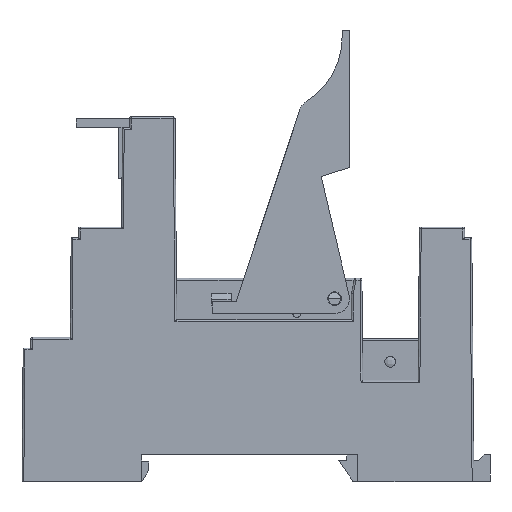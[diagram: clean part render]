
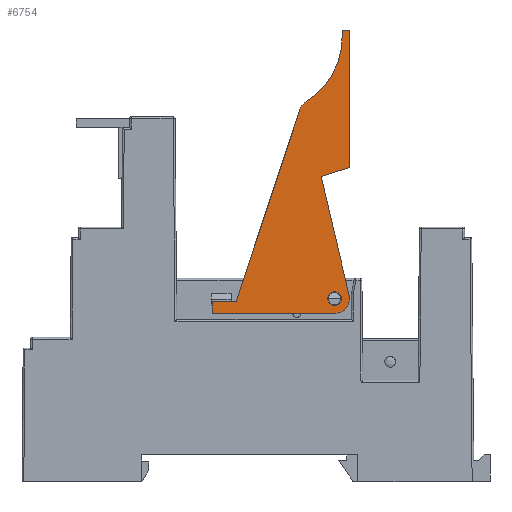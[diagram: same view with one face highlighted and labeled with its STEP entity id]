
A CAD part, left-side view. The second image highlights one B-rep face of the part: STEP entity #6754.
In plain terms, the highlighted planar face has unit normal (-1, 0, 0).
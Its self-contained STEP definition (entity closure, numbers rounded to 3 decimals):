
#378 = VECTOR ( 'NONE', #27039, 1000. ) ;
#723 = AXIS2_PLACEMENT_3D ( 'NONE', #17724, #3909, #24501 ) ;
#1044 = CARTESIAN_POINT ( 'NONE',  ( 0.15, 26.07, 28.2 ) ) ;
#1111 = ORIENTED_EDGE ( 'NONE', *, *, #17125, .F. ) ;
#1541 = ORIENTED_EDGE ( 'NONE', *, *, #21263, .F. ) ;
#1662 = DIRECTION ( 'NONE',  ( 0., 1., 0. ) ) ;
#2017 = EDGE_CURVE ( 'NONE', #27797, #2109, #17650, .T. ) ;
#2109 = VERTEX_POINT ( 'NONE', #28010 ) ;
#2165 = CARTESIAN_POINT ( 'NONE',  ( 0.15, 42.57, 30.2 ) ) ;
#2189 = EDGE_CURVE ( 'NONE', #25485, #23096, #16104, .T. ) ;
#2244 = VERTEX_POINT ( 'NONE', #13354 ) ;
#2558 = LINE ( 'NONE', #9257, #10725 ) ;
#2765 = CARTESIAN_POINT ( 'NONE',  ( 0.15, 29.501, 61.649 ) ) ;
#2853 = CARTESIAN_POINT ( 'NONE',  ( 0.15, 46.57, 30.2 ) ) ;
#3717 = CARTESIAN_POINT ( 'NONE',  ( 0.15, 26.07, 30.7 ) ) ;
#3909 = DIRECTION ( 'NONE',  ( 1., 0., 0. ) ) ;
#4038 = AXIS2_PLACEMENT_3D ( 'NONE', #2765, #16160, #9482 ) ;
#4094 = FACE_OUTER_BOUND ( 'NONE', #5244, .T. ) ;
#4175 = ORIENTED_EDGE ( 'NONE', *, *, #2017, .F. ) ;
#4322 = CARTESIAN_POINT ( 'NONE',  ( 0.15, 28.32, 51.2 ) ) ;
#4386 = VECTOR ( 'NONE', #28084, 1000. ) ;
#4415 = CARTESIAN_POINT ( 'NONE',  ( 0.15, 46.57, 28.2 ) ) ;
#4417 = ORIENTED_EDGE ( 'NONE', *, *, #19277, .F. ) ;
#4704 = ORIENTED_EDGE ( 'NONE', *, *, #28026, .F. ) ;
#4885 = EDGE_CURVE ( 'NONE', #7505, #27797, #10833, .T. ) ;
#5244 = EDGE_LOOP ( 'NONE', ( #22936, #4175, #6768, #6248, #21399, #5542, #1111, #4704, #4417, #21022, #7794, #8109, #1541 ) ) ;
#5392 = DIRECTION ( 'NONE',  ( 1., 0., 0. ) ) ;
#5410 = VECTOR ( 'NONE', #17784, 1000. ) ;
#5540 = DIRECTION ( 'NONE',  ( 0., -1., 0. ) ) ;
#5542 = ORIENTED_EDGE ( 'NONE', *, *, #22746, .F. ) ;
#5569 = DIRECTION ( 'NONE',  ( -1., 0., 0. ) ) ;
#5750 = CARTESIAN_POINT ( 'NONE',  ( 0.15, 42.57, 30.2 ) ) ;
#6248 = ORIENTED_EDGE ( 'NONE', *, *, #26065, .F. ) ;
#6625 = CARTESIAN_POINT ( 'NONE',  ( 0.15, 27.22, 30.7 ) ) ;
#6744 = CARTESIAN_POINT ( 'NONE',  ( 0.15, 26.07, 30.7 ) ) ;
#6754 = ADVANCED_FACE ( 'NONE', ( #4094, #12963 ), #17061, .F. ) ;
#6768 = ORIENTED_EDGE ( 'NONE', *, *, #4885, .F. ) ;
#7505 = VERTEX_POINT ( 'NONE', #19607 ) ;
#7661 = EDGE_LOOP ( 'NONE', ( #9612, #12289 ) ) ;
#7794 = ORIENTED_EDGE ( 'NONE', *, *, #10927, .F. ) ;
#8030 = AXIS2_PLACEMENT_3D ( 'NONE', #25582, #5569, #14418 ) ;
#8109 = ORIENTED_EDGE ( 'NONE', *, *, #25019, .F. ) ;
#8244 = EDGE_CURVE ( 'NONE', #2109, #2244, #22836, .T. ) ;
#8456 = CARTESIAN_POINT ( 'NONE',  ( 0.15, 23.57, 75.7 ) ) ;
#8606 = CARTESIAN_POINT ( 'NONE',  ( 0.15, 23.636, 31.272 ) ) ;
#9257 = CARTESIAN_POINT ( 'NONE',  ( 0.15, 24.82, 75.7 ) ) ;
#9482 = DIRECTION ( 'NONE',  ( 0., 1., 0. ) ) ;
#9612 = ORIENTED_EDGE ( 'NONE', *, *, #2189, .T. ) ;
#10252 = LINE ( 'NONE', #19146, #4386 ) ;
#10275 = AXIS2_PLACEMENT_3D ( 'NONE', #21882, #23530, #28189 ) ;
#10603 = VECTOR ( 'NONE', #11745, 1000. ) ;
#10717 = VERTEX_POINT ( 'NONE', #11827 ) ;
#10725 = VECTOR ( 'NONE', #18121, 1000. ) ;
#10833 = CIRCLE ( 'NONE', #25801, 2.5 ) ;
#10927 = EDGE_CURVE ( 'NONE', #18834, #26016, #16124, .T. ) ;
#11745 = DIRECTION ( 'NONE',  ( 0., -1., 0. ) ) ;
#11827 = CARTESIAN_POINT ( 'NONE',  ( 0.15, 23.57, 52.7 ) ) ;
#12289 = ORIENTED_EDGE ( 'NONE', *, *, #12808, .T. ) ;
#12808 = EDGE_CURVE ( 'NONE', #23096, #25485, #13124, .T. ) ;
#12963 = FACE_BOUND ( 'NONE', #7661, .T. ) ;
#13124 = CIRCLE ( 'NONE', #24838, 1.15 ) ;
#13354 = CARTESIAN_POINT ( 'NONE',  ( 0.15, 46.57, 30.2 ) ) ;
#13373 = DIRECTION ( 'NONE',  ( 0., -0.315, 0.949 ) ) ;
#13384 = EDGE_CURVE ( 'NONE', #26016, #26832, #21980, .T. ) ;
#14046 = DIRECTION ( 'NONE',  ( 0., 0., 1. ) ) ;
#14418 = DIRECTION ( 'NONE',  ( 0., -1., 0. ) ) ;
#15621 = VERTEX_POINT ( 'NONE', #5750 ) ;
#15783 = VECTOR ( 'NONE', #26448, 1000. ) ;
#15901 = CARTESIAN_POINT ( 'NONE',  ( 0.15, 23.636, 31.272 ) ) ;
#16001 = CARTESIAN_POINT ( 'NONE',  ( 0.15, 23.57, 75.7 ) ) ;
#16104 = CIRCLE ( 'NONE', #723, 1.15 ) ;
#16124 = CIRCLE ( 'NONE', #4038, 2.5 ) ;
#16160 = DIRECTION ( 'NONE',  ( 1., 0., 0. ) ) ;
#16184 = AXIS2_PLACEMENT_3D ( 'NONE', #6744, #27030, #18053 ) ;
#16506 = DIRECTION ( 'NONE',  ( 0., 0., -1. ) ) ;
#17061 = PLANE ( 'NONE',  #10275 ) ;
#17099 = DIRECTION ( 'NONE',  ( 1., 0., 0. ) ) ;
#17125 = EDGE_CURVE ( 'NONE', #25640, #10717, #28444, .T. ) ;
#17476 = LINE ( 'NONE', #8606, #15783 ) ;
#17493 = CARTESIAN_POINT ( 'NONE',  ( 0.15, 24.82, 75.7 ) ) ;
#17596 = VECTOR ( 'NONE', #14046, 1000. ) ;
#17650 = LINE ( 'NONE', #4415, #5410 ) ;
#17724 = CARTESIAN_POINT ( 'NONE',  ( 0.15, 26.07, 30.7 ) ) ;
#17784 = DIRECTION ( 'NONE',  ( 0., 1., 0. ) ) ;
#18053 = DIRECTION ( 'NONE',  ( 0., -1., 0. ) ) ;
#18121 = DIRECTION ( 'NONE',  ( 0., -1., 0. ) ) ;
#18273 = CARTESIAN_POINT ( 'NONE',  ( 0.15, 46.57, 28.2 ) ) ;
#18479 = CARTESIAN_POINT ( 'NONE',  ( 0.15, 26.07, 30.7 ) ) ;
#18834 = VERTEX_POINT ( 'NONE', #26319 ) ;
#19146 = CARTESIAN_POINT ( 'NONE',  ( 0.15, 24.82, 74.45 ) ) ;
#19277 = EDGE_CURVE ( 'NONE', #26832, #24070, #10252, .T. ) ;
#19399 = CARTESIAN_POINT ( 'NONE',  ( 0.15, 30.804, 63.783 ) ) ;
#19607 = CARTESIAN_POINT ( 'NONE',  ( 0.15, 23.57, 30.7 ) ) ;
#20127 = CARTESIAN_POINT ( 'NONE',  ( 0.15, 24.82, 74.45 ) ) ;
#20841 = CIRCLE ( 'NONE', #16184, 2.5 ) ;
#21022 = ORIENTED_EDGE ( 'NONE', *, *, #13384, .F. ) ;
#21263 = EDGE_CURVE ( 'NONE', #2244, #15621, #22849, .T. ) ;
#21399 = ORIENTED_EDGE ( 'NONE', *, *, #22981, .F. ) ;
#21882 = CARTESIAN_POINT ( 'NONE',  ( 0.15, 29.501, 61.649 ) ) ;
#21898 = CARTESIAN_POINT ( 'NONE',  ( 0.15, 23.57, 52.7 ) ) ;
#21980 = CIRCLE ( 'NONE', #8030, 12.5 ) ;
#22532 = VECTOR ( 'NONE', #13373, 1000. ) ;
#22746 = EDGE_CURVE ( 'NONE', #10717, #23609, #26630, .T. ) ;
#22836 = LINE ( 'NONE', #18273, #17596 ) ;
#22849 = LINE ( 'NONE', #2853, #10603 ) ;
#22878 = VECTOR ( 'NONE', #16506, 1000. ) ;
#22936 = ORIENTED_EDGE ( 'NONE', *, *, #8244, .F. ) ;
#22981 = EDGE_CURVE ( 'NONE', #23609, #24903, #17476, .T. ) ;
#23096 = VERTEX_POINT ( 'NONE', #6625 ) ;
#23530 = DIRECTION ( 'NONE',  ( 1., 0., 0. ) ) ;
#23609 = VERTEX_POINT ( 'NONE', #4322 ) ;
#23638 = LINE ( 'NONE', #2165, #22532 ) ;
#23934 = CARTESIAN_POINT ( 'NONE',  ( 0.15, 24.92, 30.7 ) ) ;
#24070 = VERTEX_POINT ( 'NONE', #17493 ) ;
#24501 = DIRECTION ( 'NONE',  ( 0., 1., 0. ) ) ;
#24838 = AXIS2_PLACEMENT_3D ( 'NONE', #3717, #17099, #1662 ) ;
#24903 = VERTEX_POINT ( 'NONE', #15901 ) ;
#25019 = EDGE_CURVE ( 'NONE', #15621, #18834, #23638, .T. ) ;
#25485 = VERTEX_POINT ( 'NONE', #23934 ) ;
#25582 = CARTESIAN_POINT ( 'NONE',  ( 0.15, 37.32, 74.45 ) ) ;
#25640 = VERTEX_POINT ( 'NONE', #16001 ) ;
#25801 = AXIS2_PLACEMENT_3D ( 'NONE', #18479, #5392, #5540 ) ;
#26016 = VERTEX_POINT ( 'NONE', #19399 ) ;
#26065 = EDGE_CURVE ( 'NONE', #24903, #7505, #20841, .T. ) ;
#26319 = CARTESIAN_POINT ( 'NONE',  ( 0.15, 31.873, 62.437 ) ) ;
#26448 = DIRECTION ( 'NONE',  ( 0., -0.229, -0.973 ) ) ;
#26630 = LINE ( 'NONE', #21898, #378 ) ;
#26832 = VERTEX_POINT ( 'NONE', #20127 ) ;
#27030 = DIRECTION ( 'NONE',  ( 1., 0., 0. ) ) ;
#27039 = DIRECTION ( 'NONE',  ( 0., 0.954, -0.301 ) ) ;
#27797 = VERTEX_POINT ( 'NONE', #1044 ) ;
#28010 = CARTESIAN_POINT ( 'NONE',  ( 0.15, 46.57, 28.2 ) ) ;
#28026 = EDGE_CURVE ( 'NONE', #24070, #25640, #2558, .T. ) ;
#28084 = DIRECTION ( 'NONE',  ( 0., 0., 1. ) ) ;
#28189 = DIRECTION ( 'NONE',  ( 0., 1., 0. ) ) ;
#28444 = LINE ( 'NONE', #8456, #22878 ) ;
